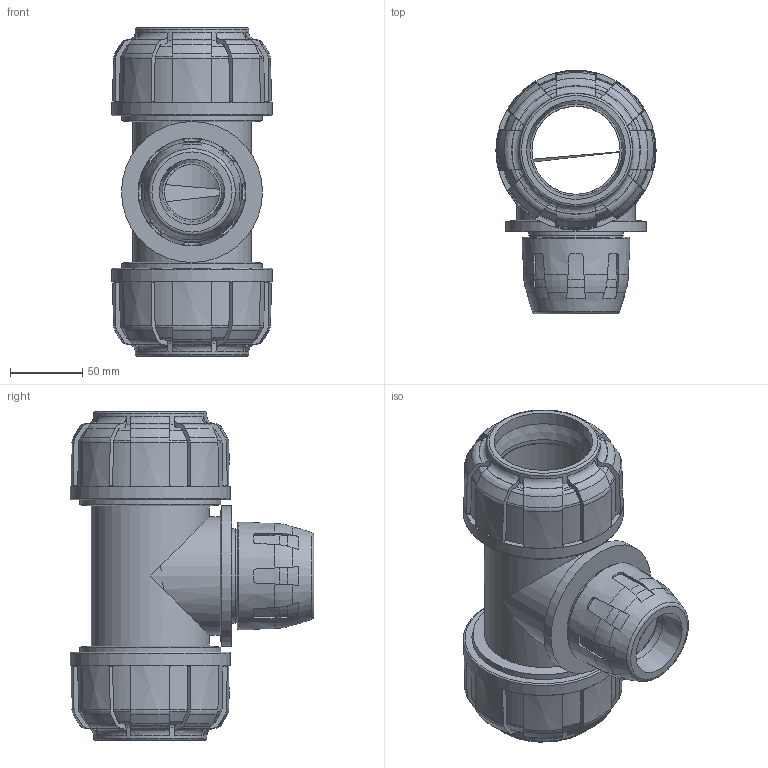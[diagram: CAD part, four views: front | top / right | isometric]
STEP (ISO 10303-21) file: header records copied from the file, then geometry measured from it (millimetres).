
FILE_DESCRIPTION( ( 'STEP AP214' ), '1' );
FILE_NAME( ' ', ' ', ( ' ' ), ( ' ' ), 'PSStep 11.0', 'VISI 17.0', ' ' );
FILE_SCHEMA( ( 'AUTOMOTIVE_DESIGN { 1 0 10303 214 1 1 1 1 }' ) );
Length unit declared in the file: millimetre
Products named in the file (4): 1; 2; 3; 4
Bounding box: 110.9 x 168.7 x 227.68 mm (x, y, z)
Volume: 1101572 mm3; surface area: 240745.7 mm2
Topology: 4 solids, 4 shells, 720 faces, 2050 edges, 1363 vertices
Faces by surface type: plane 338, cone 168, torus 111, cylinder 87, bspline 16
Full cylindrical faces by diameter (mm): 38 x1, 40.8 x1, 40.9 x1, 59.2 x1, 59.8 x2, 61 x1, 63.87 x2, 64.4 x2, 65 x1, 65.4 x1, 68.449 x2, 70.4 x1, 82 x2, 85.4 x2, 86 x4, 86.393 x2, 90.9 x2, 91.6 x2, 93 x2, 97.6 x3, 99 x2, 110.9 x2
Entity records: 32321 total; most frequent: CARTESIAN_POINT 9177, ORIENTED_EDGE 3896, DIRECTION 3262, EDGE_CURVE 1948, AXIS2_PLACEMENT_3D 1407, VERTEX_POINT 1332, EDGE_LOOP 826, B_SPLINE_CURVE_WITH_KNOTS 801
